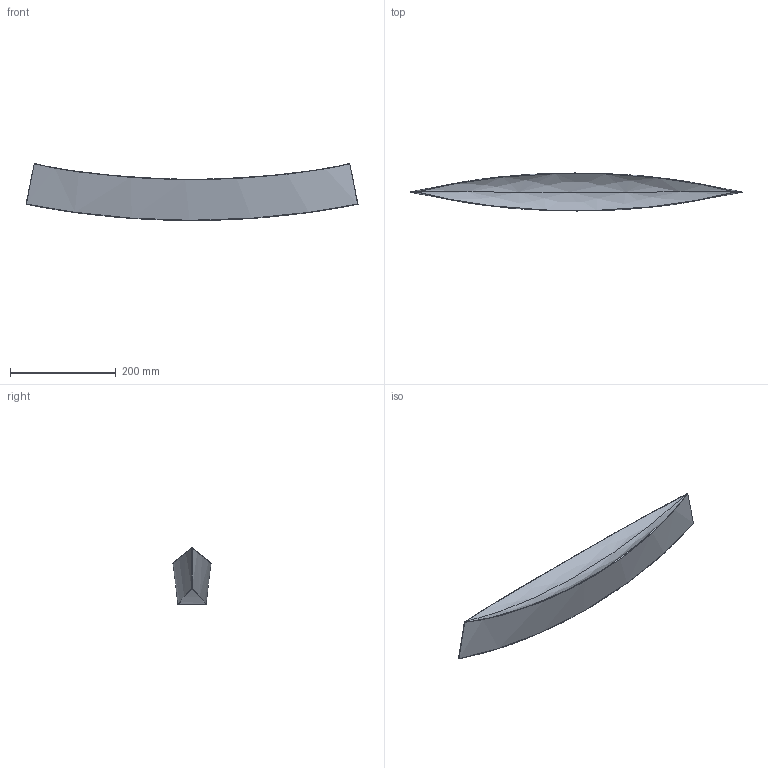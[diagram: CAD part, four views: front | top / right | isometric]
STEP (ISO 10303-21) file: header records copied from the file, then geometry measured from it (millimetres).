
FILE_DESCRIPTION(/* description */ (''),/* implementation_level */ '2;1');
FILE_NAME(/* name */ 'Gondola',/* time_stamp */ '2018-07-05T10:24:52+02:00',/* author */ (''),/* organization */ (''),/* preprocessor_version */ 'ST-DEVELOPER v10',/* originating_system */ '',/* authorisation */ '');
FILE_SCHEMA (('CONFIG_CONTROL_DESIGN'));
Length unit declared in the file: centimetre
Products named in the file (1): 1
Bounding box: 628.88 x 71.99 x 108.02 mm (x, y, z)
Volume: 1877813.2 mm3; surface area: 152573.5 mm2
Topology: 1 solids, 1 shells, 17 faces, 31 edges, 16 vertices
Faces by surface type: bspline 17
Entity records: 1741 total; most frequent: CARTESIAN_POINT 1465, ORIENTED_EDGE 62, EDGE_CURVE 31, B_SPLINE_CURVE_WITH_KNOTS 22, ADVANCED_FACE 17, FACE_OUTER_BOUND 17, EDGE_LOOP 17, VERTEX_POINT 16
